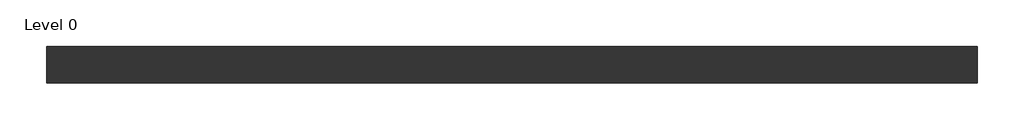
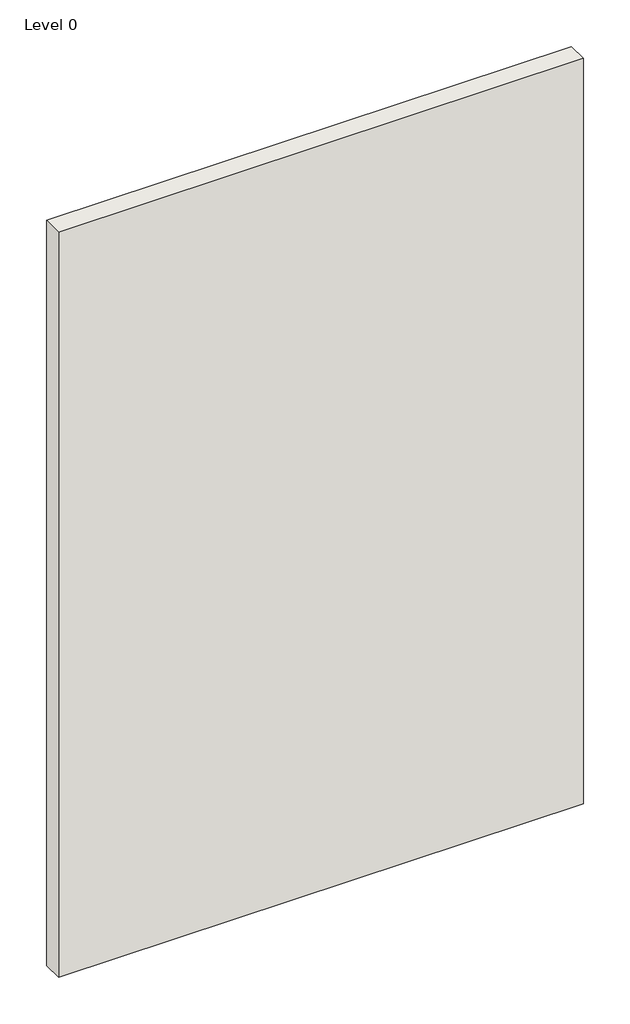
# One storey: 1 wall.
"""IFC4 building model written with IfcOpenShell, lengths in millimetres."""

from ifc_helpers import new_model, si_unit, origin, origin_with_axes, place, context, project, spatial, polyline, outline, extrude, element, save

model = new_model("IFC4")

# Units and contexts
model_context = context("Model", 3, world=origin())
ifc_project = project(units=[si_unit("LENGTHUNIT", "METRE", prefix="MILLI")], contexts=[model_context])

# Site, building, storey
site = spatial("IfcSite", under=ifc_project)
building = spatial("IfcBuilding", under=site)
storey = spatial("IfcBuildingStorey", under=building, Name="Level 0", Elevation=0.0)

# Wall
placement = place(None, origin())
element("IfcWall", 1, ObjectType="A206232 - GypWall CLASSIC", at=placement, inside=storey, context=model_context, shape_type="SweptSolid", body=[
    extrude(outline(polyline([(2116.0807354, 534.2205641), (-883.9192646, 534.2205641), (-883.9192646, 653.2205641), (2116.0807354, 653.2205641), (2116.0807354, 534.2205641)])), origin_with_axes(), (0.0, 0.0, 1.0), 4500.0),
])

save(model, "model.ifc")
